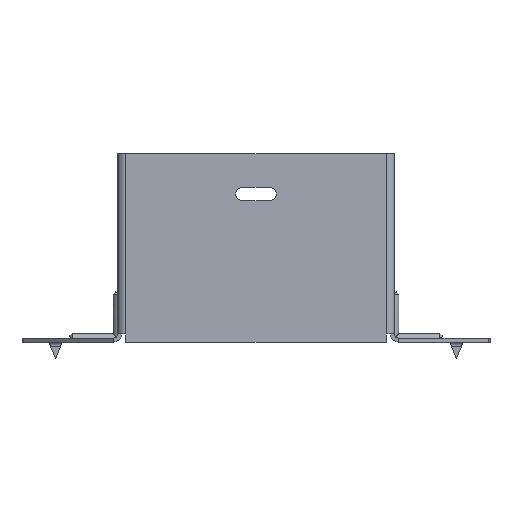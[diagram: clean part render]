
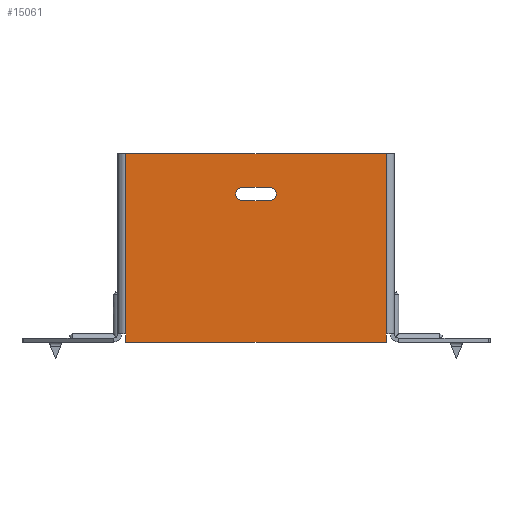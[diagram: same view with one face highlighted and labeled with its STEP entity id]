
A CAD part, front view. The second image highlights one B-rep face of the part: STEP entity #15061.
In plain terms, the highlighted planar face has unit normal (0, -1, 0).
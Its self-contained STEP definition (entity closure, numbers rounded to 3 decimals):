
#497 = CARTESIAN_POINT ( 'NONE',  ( -50., 0., -70. ) ) ;
#617 = DIRECTION ( 'NONE',  ( 0., 0., 1. ) ) ;
#621 = FACE_BOUND ( 'NONE', #15100, .T. ) ;
#652 = CARTESIAN_POINT ( 'NONE',  ( -48.5, 0., 0. ) ) ;
#687 = LINE ( 'NONE', #497, #16428 ) ;
#835 = EDGE_CURVE ( 'NONE', #10363, #12743, #1016, .T. ) ;
#939 = CIRCLE ( 'NONE', #4986, 2.5 ) ;
#1016 = LINE ( 'NONE', #652, #15867 ) ;
#1201 = PLANE ( 'NONE',  #11118 ) ;
#1398 = ORIENTED_EDGE ( 'NONE', *, *, #6163, .T. ) ;
#2013 = DIRECTION ( 'NONE',  ( 0., 1., 0. ) ) ;
#2399 = VERTEX_POINT ( 'NONE', #8641 ) ;
#2511 = LINE ( 'NONE', #17936, #11957 ) ;
#2643 = VERTEX_POINT ( 'NONE', #3422 ) ;
#2732 = ORIENTED_EDGE ( 'NONE', *, *, #835, .T. ) ;
#3422 = CARTESIAN_POINT ( 'NONE',  ( -5., 0., -12.5 ) ) ;
#3673 = EDGE_CURVE ( 'NONE', #10363, #12549, #14917, .T. ) ;
#4151 = CARTESIAN_POINT ( 'NONE',  ( -5., 0., -15. ) ) ;
#4217 = DIRECTION ( 'NONE',  ( 0., 1., 0. ) ) ;
#4278 = DIRECTION ( 'NONE',  ( 0., 0., 1. ) ) ;
#4528 = EDGE_CURVE ( 'NONE', #2643, #17530, #5228, .T. ) ;
#4986 = AXIS2_PLACEMENT_3D ( 'NONE', #10687, #2013, #17846 ) ;
#5042 = EDGE_CURVE ( 'NONE', #2399, #2643, #11284, .T. ) ;
#5228 = LINE ( 'NONE', #13896, #15123 ) ;
#5326 = CARTESIAN_POINT ( 'NONE',  ( -48.5, 0., -67. ) ) ;
#5505 = ORIENTED_EDGE ( 'NONE', *, *, #3673, .F. ) ;
#5591 = CARTESIAN_POINT ( 'NONE',  ( -48.5, 0., 0. ) ) ;
#5776 = DIRECTION ( 'NONE',  ( 0., 0., -1. ) ) ;
#6163 = EDGE_CURVE ( 'NONE', #12981, #12549, #2511, .T. ) ;
#6429 = EDGE_CURVE ( 'NONE', #17530, #12389, #939, .T. ) ;
#6889 = ORIENTED_EDGE ( 'NONE', *, *, #11276, .T. ) ;
#7057 = ORIENTED_EDGE ( 'NONE', *, *, #8685, .T. ) ;
#7214 = EDGE_CURVE ( 'NONE', #14310, #11193, #687, .T. ) ;
#7555 = LINE ( 'NONE', #11606, #12295 ) ;
#7721 = DIRECTION ( 'NONE',  ( 0., 0., -1. ) ) ;
#7747 = CARTESIAN_POINT ( 'NONE',  ( -5., 0., -17.5 ) ) ;
#8363 = CARTESIAN_POINT ( 'NONE',  ( 5., 0., -17.5 ) ) ;
#8364 = EDGE_LOOP ( 'NONE', ( #2732, #18035, #12768, #7057, #1398, #5505 ) ) ;
#8443 = ORIENTED_EDGE ( 'NONE', *, *, #6429, .T. ) ;
#8641 = CARTESIAN_POINT ( 'NONE',  ( -5., 0., -17.5 ) ) ;
#8685 = EDGE_CURVE ( 'NONE', #14310, #12981, #7555, .T. ) ;
#8772 = CARTESIAN_POINT ( 'NONE',  ( 5., 0., -12.5 ) ) ;
#9790 = CARTESIAN_POINT ( 'NONE',  ( 48.5, 0., -67. ) ) ;
#10363 = VERTEX_POINT ( 'NONE', #5591 ) ;
#10467 = EDGE_CURVE ( 'NONE', #12743, #11193, #16511, .T. ) ;
#10614 = DIRECTION ( 'NONE',  ( -1., 0., 0. ) ) ;
#10632 = AXIS2_PLACEMENT_3D ( 'NONE', #4151, #4217, #11317 ) ;
#10663 = VECTOR ( 'NONE', #11759, 1000. ) ;
#10687 = CARTESIAN_POINT ( 'NONE',  ( 5., 0., -15. ) ) ;
#10794 = DIRECTION ( 'NONE',  ( -1., 0., 0. ) ) ;
#11118 = AXIS2_PLACEMENT_3D ( 'NONE', #12735, #15790, #4278 ) ;
#11193 = VERTEX_POINT ( 'NONE', #17645 ) ;
#11276 = EDGE_CURVE ( 'NONE', #12389, #2399, #12638, .T. ) ;
#11284 = CIRCLE ( 'NONE', #10632, 2.5 ) ;
#11317 = DIRECTION ( 'NONE',  ( 0., 0., 1. ) ) ;
#11562 = VECTOR ( 'NONE', #5776, 1000. ) ;
#11606 = CARTESIAN_POINT ( 'NONE',  ( 48.5, 0., -70. ) ) ;
#11697 = CARTESIAN_POINT ( 'NONE',  ( -48.5, 0., 0. ) ) ;
#11759 = DIRECTION ( 'NONE',  ( 1., 0., 0. ) ) ;
#11957 = VECTOR ( 'NONE', #13515, 1000. ) ;
#12295 = VECTOR ( 'NONE', #617, 1000. ) ;
#12389 = VERTEX_POINT ( 'NONE', #8363 ) ;
#12549 = VERTEX_POINT ( 'NONE', #14884 ) ;
#12638 = LINE ( 'NONE', #7747, #15814 ) ;
#12735 = CARTESIAN_POINT ( 'NONE',  ( 0., 0., 0. ) ) ;
#12743 = VERTEX_POINT ( 'NONE', #5326 ) ;
#12768 = ORIENTED_EDGE ( 'NONE', *, *, #7214, .F. ) ;
#12981 = VERTEX_POINT ( 'NONE', #9790 ) ;
#13515 = DIRECTION ( 'NONE',  ( 0., 0., 1. ) ) ;
#13705 = CARTESIAN_POINT ( 'NONE',  ( 48.5, 0., -70. ) ) ;
#13896 = CARTESIAN_POINT ( 'NONE',  ( -5., 0., -12.5 ) ) ;
#14310 = VERTEX_POINT ( 'NONE', #13705 ) ;
#14884 = CARTESIAN_POINT ( 'NONE',  ( 48.5, 0., 0. ) ) ;
#14917 = LINE ( 'NONE', #16092, #10663 ) ;
#14970 = ORIENTED_EDGE ( 'NONE', *, *, #5042, .T. ) ;
#15061 = ADVANCED_FACE ( 'NONE', ( #621, #16830 ), #1201, .F. ) ;
#15100 = EDGE_LOOP ( 'NONE', ( #6889, #14970, #15492, #8443 ) ) ;
#15123 = VECTOR ( 'NONE', #15430, 1000. ) ;
#15430 = DIRECTION ( 'NONE',  ( 1., 0., 0. ) ) ;
#15492 = ORIENTED_EDGE ( 'NONE', *, *, #4528, .T. ) ;
#15790 = DIRECTION ( 'NONE',  ( 0., 1., 0. ) ) ;
#15814 = VECTOR ( 'NONE', #10794, 1000. ) ;
#15867 = VECTOR ( 'NONE', #7721, 1000. ) ;
#16092 = CARTESIAN_POINT ( 'NONE',  ( -50., 0., 0. ) ) ;
#16428 = VECTOR ( 'NONE', #10614, 1000. ) ;
#16511 = LINE ( 'NONE', #11697, #11562 ) ;
#16830 = FACE_OUTER_BOUND ( 'NONE', #8364, .T. ) ;
#17530 = VERTEX_POINT ( 'NONE', #8772 ) ;
#17645 = CARTESIAN_POINT ( 'NONE',  ( -48.5, 0., -70. ) ) ;
#17846 = DIRECTION ( 'NONE',  ( 0., 0., 1. ) ) ;
#17936 = CARTESIAN_POINT ( 'NONE',  ( 48.5, 0., -70. ) ) ;
#18035 = ORIENTED_EDGE ( 'NONE', *, *, #10467, .T. ) ;
